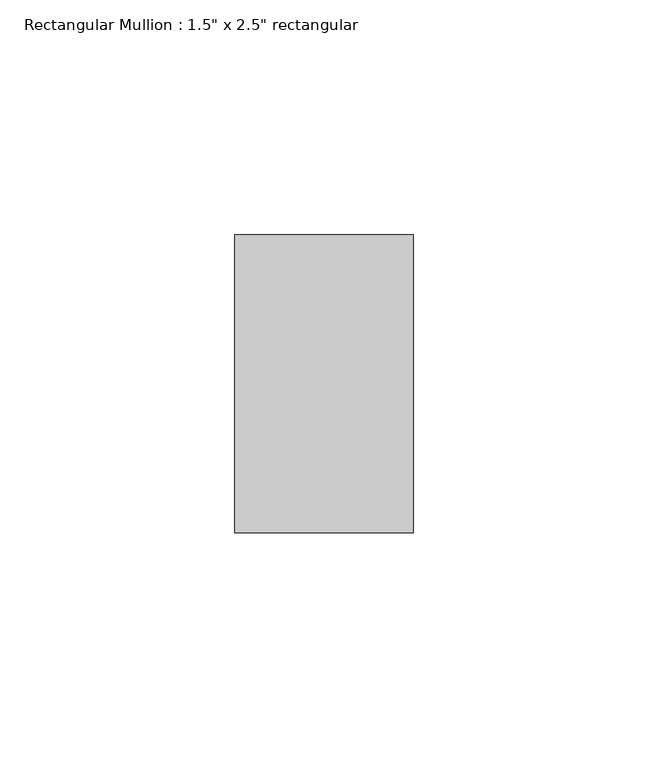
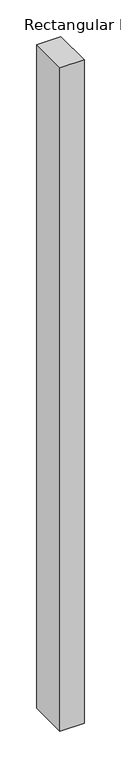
"""IFC4 building model written with IfcOpenShell, lengths in millimetres: member geometry."""

from ifc_helpers import new_model, si_unit, frame, origin, place, context, project, spatial, polyline, outline, extrude, source, transform, mapped, element, save


def member_befc88b7(model_context):
    return source(origin(), model_context, "Body", "SweptSolid", [
        extrude(outline(polyline([(0.0, 31.75), (0.0, -31.75), (-38.1, -31.75), (-38.1, 31.75), (0.0, 31.75)])), frame((0.0, 0.0, -1104.1767085), z_axis=(0.0, 0.0, 1.0), x_axis=(1.0, 0.0, 0.0)), (0.0, 0.0, 1.0), 1104.1767085),
    ])


if __name__ == "__main__":
    model = new_model("IFC4")
    model_context = context("Model", 3, world=origin())
    ifc_project = project(units=[si_unit("LENGTHUNIT", "METRE", prefix="MILLI")], contexts=[model_context])
    site = spatial("IfcSite", under=ifc_project)
    building = spatial("IfcBuilding", under=site)
    placement = place(None, origin())
    member_shape = member_befc88b7(model_context)
    element("IfcMember", 1, ObjectType="Rectangular Mullion : 1.5\" x 2.5\" rectangular", at=placement, inside=building, context=model_context, shape_type="MappedRepresentation", body=[
        mapped(member_shape, transform((0.0, 0.0, 0.0), x_axis=(1.0, 0.0, 0.0), y_axis=(0.0, 1.0, 0.0), z_axis=(0.0, 0.0, 1.0))),
    ])
    save(model, "model.ifc")
